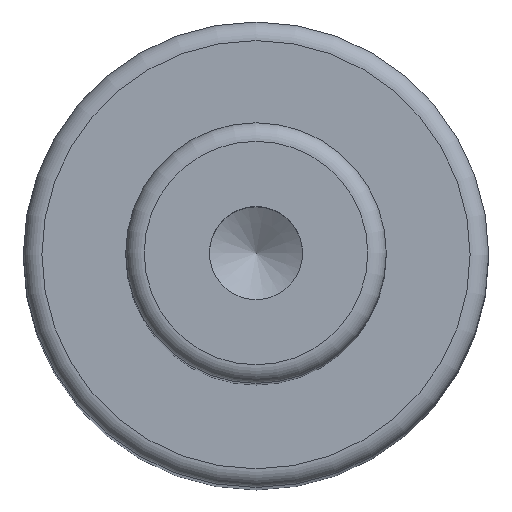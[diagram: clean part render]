
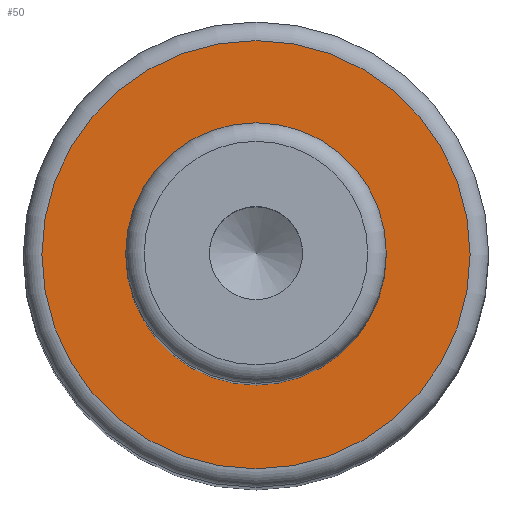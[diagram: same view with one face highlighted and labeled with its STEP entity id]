
A CAD part, top view. The second image highlights one B-rep face of the part: STEP entity #50.
In plain terms, the highlighted planar face has unit normal (0, 0, 1).
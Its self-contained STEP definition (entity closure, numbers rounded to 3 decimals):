
#40=PLANE('',#179);
#50=ADVANCED_FACE('',(#72,#73),#40,.F.);
#72=FACE_BOUND('',#96,.T.);
#73=FACE_BOUND('',#97,.T.);
#96=EDGE_LOOP('',(#118));
#97=EDGE_LOOP('',(#119));
#118=ORIENTED_EDGE('',*,*,#149,.F.);
#119=ORIENTED_EDGE('',*,*,#148,.T.);
#135=VERTEX_POINT('',#256);
#136=VERTEX_POINT('',#259);
#148=EDGE_CURVE('',#135,#135,#159,.T.);
#149=EDGE_CURVE('',#136,#136,#160,.T.);
#159=CIRCLE('',#176,7.);
#160=CIRCLE('',#178,11.5);
#176=AXIS2_PLACEMENT_3D('',#255,#213,#214);
#178=AXIS2_PLACEMENT_3D('',#258,#217,#218);
#179=AXIS2_PLACEMENT_3D('',#260,#219,#220);
#213=DIRECTION('',(0.,0.,-1.));
#214=DIRECTION('',(-1.,0.,0.));
#217=DIRECTION('',(0.,0.,-1.));
#218=DIRECTION('',(-1.,0.,0.));
#219=DIRECTION('',(0.,0.,-1.));
#220=DIRECTION('',(-1.,0.,0.));
#255=CARTESIAN_POINT('',(0.,0.,79.));
#256=CARTESIAN_POINT('',(-7.,0.,79.));
#258=CARTESIAN_POINT('',(0.,0.,79.));
#259=CARTESIAN_POINT('',(-11.5,0.,79.));
#260=CARTESIAN_POINT('',(7.,0.,79.));
